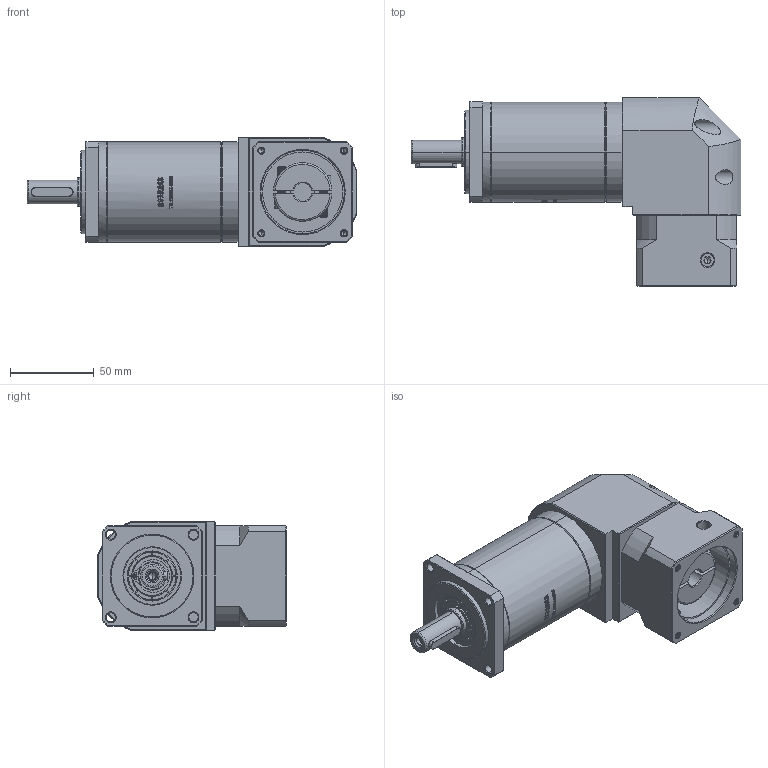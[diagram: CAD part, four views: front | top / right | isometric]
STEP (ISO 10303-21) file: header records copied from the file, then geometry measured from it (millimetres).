
FILE_DESCRIPTION (( 'STEP AP214' ), '1' );
FILE_NAME ('ZFR60-D14-L3-11-50-70-M4.STEP', '2022-04-20T08:29:39', ( '' ), ( 'Microsoft' ), 'SwSTEP 2.0', 'SolidWorks 2016', '' );
FILE_SCHEMA (( 'AUTOMOTIVE_DESIGN' ));
Length unit declared in the file: millimetre
Products named in the file (1): ZFR60-D14-L3-11-50-70-M4
Bounding box: 197.5 x 112.7 x 65 mm (x, y, z)
Volume: 636370.5 mm3; surface area: 85086.8 mm2
Topology: 5 solids, 6 shells, 2684 faces, 7320 edges, 4773 vertices
Faces by surface type: plane 1397, bspline 579, cylinder 394, cone 288, torus 26
Entity records: 146704 total; most frequent: CARTESIAN_POINT 54848, ORIENTED_EDGE 14596, DIRECTION 10512, EDGE_CURVE 7298, VERTEX_POINT 4773, VECTOR 4376, LINE 4376, AXIS2_PLACEMENT_3D 3068
